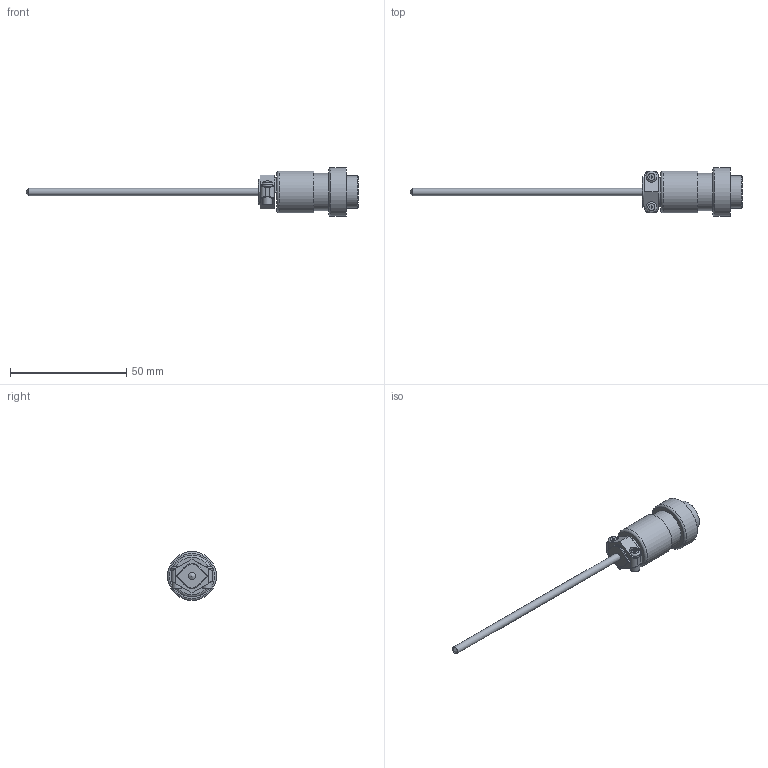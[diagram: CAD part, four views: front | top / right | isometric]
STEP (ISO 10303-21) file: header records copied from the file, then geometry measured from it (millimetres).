
FILE_DESCRIPTION (( 'STEP AP203' ), '1' );
FILE_NAME ('YIT90-2(0).step', '2025-05-28T07:14:54', ( '' ), ( '' ), 'SwSTEP 2.0', 'SolidWorks 2021', '' );
FILE_SCHEMA (( 'CONFIG_CONTROL_DESIGN' ));
Length unit declared in the file: millimetre
Products named in the file (1): YIT90-2(0)
Bounding box: 143 x 21 x 21 mm (x, y, z)
Volume: 9100.6 mm3; surface area: 5733.7 mm2
Topology: 4 solids, 4 shells, 82 faces, 194 edges, 127 vertices
Faces by surface type: plane 50, cylinder 20, torus 4, bspline 4, cone 2, sphere 2
Full cylindrical faces by diameter (mm): 2.5 x1, 3 x1, 3.2 x1, 4 x2, 4.7 x2, 4.8 x2, 13.5 x1, 14 x1, 16 x2, 18 x1, 21 x1
Entity records: 2381 total; most frequent: CARTESIAN_POINT 615, DIRECTION 328, ORIENTED_EDGE 316, EDGE_CURVE 158, EDGE_LOOP 118, VERTEX_POINT 116, AXIS2_PLACEMENT_3D 113, LINE 102
